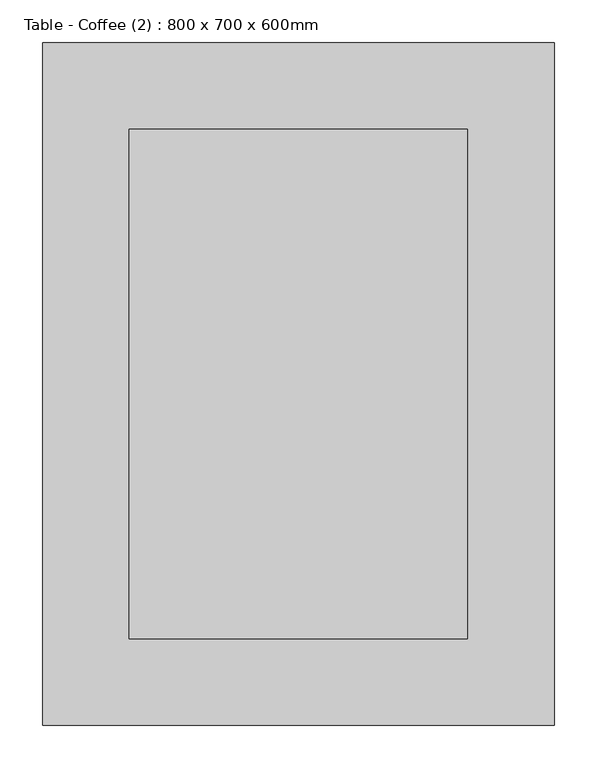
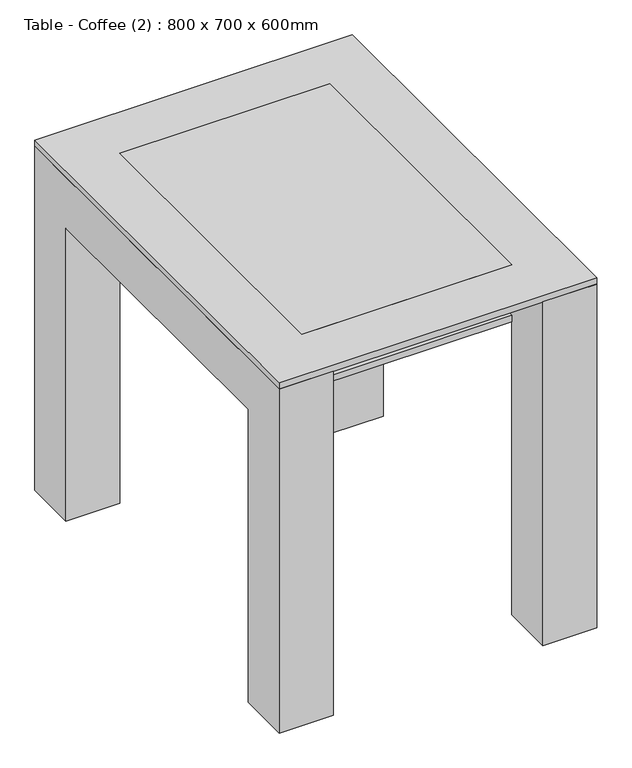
"""IFC4 building model written with IfcOpenShell, lengths in millimetres: furniture geometry, Table - Coffee (2) : 800 x 700 x 600mm."""

import ifcopenshell
import ifcopenshell.guid

model = None  # the IFC model being written
_history = None  # IfcOwnerHistory: only IFC2X3 demands one
_inside = {}  # id of a spatial element -> (the spatial element, [elements in it])
_under = {}  # id of a project, library or spatial element -> (it, [spatial elements below it])
_declared = {}  # id of a project -> (the project, [libraries it declares])
_typed = {}  # id of a type object -> (the type object, [elements of that type])
_made_of = {}  # id of a material, layer set ... -> (it, [elements and type objects made of it])


def new_model(schema):
    """Start an empty IFC model of exactly this schema.

    Asked for "IFC4X3", IfcOpenShell would pick the latest addendum, in which some entities
    have other attributes; the version numbers below select the first issue.
    IFC2X3 requires an IfcOwnerHistory on every rooted entity: one is made here for all.
    """
    global model, _history
    if schema == "IFC4X3":
        model = ifcopenshell.file(schema_version=(4, 3, 0, 0))
    else:
        model = ifcopenshell.file(schema=schema)
    _inside.clear()
    _under.clear()
    _declared.clear()
    _typed.clear()
    _made_of.clear()
    _history = None
    if model.schema == "IFC2X3":
        org = make("IfcOrganization", Name="unknown")
        user = make(
            "IfcPersonAndOrganization",
            ThePerson=make("IfcPerson", FamilyName="unknown"),
            TheOrganization=org,
        )
        app = make(
            "IfcApplication",
            ApplicationDeveloper=org,
            Version="unknown",
            ApplicationFullName="unknown",
            ApplicationIdentifier="unknown",
        )
        _history = make(
            "IfcOwnerHistory",
            OwningUser=user,
            OwningApplication=app,
            ChangeAction="ADDED",
            CreationDate=0,
        )
    return model


def make(cls, **values):
    """One entity of the class cls with the attributes given. An attribute that is None is left unset."""
    return model.create_entity(
        cls, **{name: value for name, value in values.items() if value is not None}
    )


def rooted(cls, **values):
    """An entity with a GlobalId (a new one), such as an element, a storey or a relation."""
    return make(cls, GlobalId=ifcopenshell.guid.new(), OwnerHistory=_history, **values)


def si_unit(unit_type, name, prefix=None):
    """IfcSIUnit, for example si_unit("LENGTHUNIT", "METRE", prefix="MILLI")."""
    return make("IfcSIUnit", UnitType=unit_type, Prefix=prefix, Name=name)


def assignment(units):
    """IfcUnitAssignment: the units of a project."""
    return None if units is None else make("IfcUnitAssignment", Units=units)


def point(xyz):
    """IfcCartesianPoint."""
    return None if xyz is None else make("IfcCartesianPoint", Coordinates=xyz)


def direction(xyz):
    """IfcDirection."""
    return None if xyz is None else make("IfcDirection", DirectionRatios=xyz)


def frame(location, z_axis=None, x_axis=None):
    """IfcAxis2Placement3D, a coordinate frame: its origin and axes. An axis left out is left unset."""
    return make(
        "IfcAxis2Placement3D",
        Location=point(location),
        Axis=direction(z_axis),
        RefDirection=direction(x_axis),
    )


def origin():
    """The frame at (0, 0, 0) with its axes left unset."""
    return frame((0.0, 0.0, 0.0))


def place(relative_to, where):
    """IfcLocalPlacement: puts the frame where relative to a parent placement (None: the world)."""
    return make(
        "IfcLocalPlacement", PlacementRelTo=relative_to, RelativePlacement=where
    )


def context(
    kind, dimensions, precision=None, world=None, true_north=None, identifier=None
):
    """IfcGeometricRepresentationContext, for example the 3D "Model" context."""
    return make(
        "IfcGeometricRepresentationContext",
        ContextIdentifier=identifier,
        ContextType=kind,
        CoordinateSpaceDimension=dimensions,
        Precision=precision,
        WorldCoordinateSystem=world,
        TrueNorth=true_north,
    )


def project(units=None, contexts=None):
    """IfcProject with its units and contexts."""
    return rooted(
        "IfcProject",
        Name="project",
        RepresentationContexts=contexts,
        UnitsInContext=assignment(units),
    )


def spatial(cls, under=None, at=None, **own):
    """A site, building, storey or space (cls), placed at a placement, below another one or the project."""
    s = rooted(cls, ObjectPlacement=at, **own)
    if under is not None:
        _under.setdefault(under.id(), (under, []))[1].append(s)
    return s


def polyline(points):
    """IfcPolyline through the points."""
    return make("IfcPolyline", Points=[point(p) for p in points])


def outline(outer, holes=None, kind="AREA"):
    """IfcArbitraryClosedProfileDef: a profile drawn as a closed curve; with holes, ...WithVoids."""
    if holes is None:
        return make("IfcArbitraryClosedProfileDef", ProfileType=kind, OuterCurve=outer)
    return make(
        "IfcArbitraryProfileDefWithVoids",
        ProfileType=kind,
        OuterCurve=outer,
        InnerCurves=holes,
    )


def extrude(swept, where, along, depth):
    """IfcExtrudedAreaSolid: the profile swept, set in the frame where, extruded along a direction by depth."""
    return make(
        "IfcExtrudedAreaSolid",
        SweptArea=swept,
        Position=where,
        ExtrudedDirection=direction(along),
        Depth=depth,
    )


def shape(context_of_items, identifier, shape_type, items):
    """IfcShapeRepresentation: the items that make up one representation, for example the "Body"."""
    return make(
        "IfcShapeRepresentation",
        ContextOfItems=context_of_items,
        RepresentationIdentifier=identifier,
        RepresentationType=shape_type,
        Items=items,
    )


def source(mapping_origin, context_of_items, identifier, shape_type, items):
    """IfcRepresentationMap: a shape defined once, which mapped items show again and again."""
    return make(
        "IfcRepresentationMap",
        MappingOrigin=mapping_origin,
        MappedRepresentation=shape(context_of_items, identifier, shape_type, items),
    )


def transform(
    local_origin,
    x_axis=None,
    y_axis=None,
    z_axis=None,
    scale=None,
    scale2=None,
    scale3=None,
    uniform=True,
):
    """IfcCartesianTransformationOperator3D, or its non-uniform kind. x_axis, y_axis, z_axis: its Axis1, 2, 3."""
    if uniform:
        return make(
            "IfcCartesianTransformationOperator3D",
            Axis1=direction(x_axis),
            Axis2=direction(y_axis),
            LocalOrigin=point(local_origin),
            Scale=scale,
            Axis3=direction(z_axis),
        )
    return make(
        "IfcCartesianTransformationOperator3DnonUniform",
        Axis1=direction(x_axis),
        Axis2=direction(y_axis),
        LocalOrigin=point(local_origin),
        Scale=scale,
        Axis3=direction(z_axis),
        Scale2=scale2,
        Scale3=scale3,
    )


def mapped(mapping_source, mapping_target):
    """IfcMappedItem: shows the shape of a source again, moved by a transform."""
    return make(
        "IfcMappedItem", MappingSource=mapping_source, MappingTarget=mapping_target
    )


def made_of(thing, what):
    """Note that an element or type object is made of a material, layer set ...; save() writes the relation."""
    if what is not None:
        _made_of.setdefault(what.id(), (what, []))[1].append(thing)
    return thing


def element(
    cls,
    number,
    at=None,
    inside=None,
    cuts=None,
    type_object=None,
    material=None,
    context=None,
    identifier="Body",
    shape_type=None,
    held_by="IfcProductDefinitionShape",
    body=None,
    shapes=None,
    **own,
):
    """One element of the class cls, such as IfcWall. Its Tag is "e" and its number.

    at: its placement. inside: the storey or other place that contains it. cuts: it is an
    opening in that element (IfcRelVoidsElement). A single representation is given by context,
    identifier, shape_type and body (its items); several are given by shapes. held_by: the class
    of the entity that holds the representations. save() writes the other relations.
    """
    e = rooted(cls, Tag="e%d" % number, ObjectPlacement=at, **own)
    if body is not None:
        shapes = [shape(context, identifier, shape_type, body)]
    if shapes is not None:
        e.Representation = make(held_by, Representations=shapes)
    if inside is not None:
        _inside.setdefault(inside.id(), (inside, []))[1].append(e)
    if cuts is not None:
        rooted(
            "IfcRelVoidsElement", RelatingBuildingElement=cuts, RelatedOpeningElement=e
        )
    if type_object is not None:
        _typed.setdefault(type_object.id(), (type_object, []))[1].append(e)
    return made_of(e, material)


def aggregate(whole, parts):
    """IfcRelAggregates: a whole, such as a stair, and the parts it consists of."""
    return rooted("IfcRelAggregates", RelatingObject=whole, RelatedObjects=parts)


def save(model, path):
    """Write the relations noted so far, then the file.

    IfcRelAggregates (storeys below a building ...), IfcRelContainedInSpatialStructure (elements
    in a storey), IfcRelDefinesByType, IfcRelAssociatesMaterial and IfcRelDeclares: one each for
    every whole, place, type object, material and project.
    """
    for whole, parts in _under.values():
        aggregate(whole, parts)
    for where, things in _inside.values():
        rooted(
            "IfcRelContainedInSpatialStructure",
            RelatedElements=things,
            RelatingStructure=where,
        )
    for kind, things in _typed.values():
        rooted("IfcRelDefinesByType", RelatedObjects=things, RelatingType=kind)
    for what, things in _made_of.values():
        rooted("IfcRelAssociatesMaterial", RelatedObjects=things, RelatingMaterial=what)
    for by, libraries in _declared.values():
        rooted("IfcRelDeclares", RelatingContext=by, RelatedDefinitions=libraries)
    model.write(path)


def table_coffee_2_800_x_700_x_600mm_039c7049(model_context):
    return source(origin(), model_context, "Body", "SweptSolid", [
        extrude(outline(polyline([(216.6657667, 393.6110778), (216.6657667, -203.1889222), (-180.1342333, -203.1889222), (-180.1342333, 393.6110778), (216.6657667, 393.6110778)])), frame((0.0, 0.0, 585.7), z_axis=(0.0, 0.0, 1.0), x_axis=(1.0, 0.0, 0.0)), (0.0, 0.0, 1.0), 12.7),
        extrude(outline(polyline([(495.2110778, 0.0), (393.6110778, 0.0), (393.6110778, 585.7), (-203.1889222, 585.7), (-203.1889222, 0.0), (-304.7889222, 0.0), (-304.7889222, 687.3), (495.2110778, 687.3), (495.2110778, 0.0)])), frame((216.6657667, 0.0, 0.0), z_axis=(1.0, 0.0, 0.0), x_axis=(0.0, 1.0, 0.0)), (0.0, 0.0, 1.0), 101.6),
        extrude(outline(polyline([(495.2110778, 687.3), (495.2110778, 0.0), (393.6110778, 0.0), (393.6110778, 585.7), (-203.1889222, 585.7), (-203.1889222, 0.0), (-304.7889222, 0.0), (-304.7889222, 687.3), (495.2110778, 687.3)])), frame((-281.7342333, 0.0, 0.0), z_axis=(1.0, 0.0, 0.0), x_axis=(0.0, 1.0, 0.0)), (0.0, 0.0, 1.0), 101.6),
        extrude(outline(polyline([(216.6657667, 393.6110778), (216.6657667, -203.1889222), (-180.1342333, -203.1889222), (-180.1342333, 393.6110778), (216.6657667, 393.6110778)])), frame((0.0, 0.0, 687.3), z_axis=(0.0, 0.0, 1.0), x_axis=(1.0, 0.0, 0.0)), (0.0, 0.0, 1.0), 12.7),
        extrude(outline(polyline([(318.2657667, 495.2110778), (318.2657667, -304.7889222), (-281.7342333, -304.7889222), (-281.7342333, 495.2110778), (318.2657667, 495.2110778)]), holes=[polyline([(216.6657667, 393.6110778), (-180.1342333, 393.6110778), (-180.1342333, -203.1889222), (216.6657667, -203.1889222), (216.6657667, 393.6110778)])]), frame((0.0, 0.0, 687.3), z_axis=(0.0, 0.0, 1.0), x_axis=(1.0, 0.0, 0.0)), (0.0, 0.0, 1.0), 12.7),
    ])


if __name__ == "__main__":
    model = new_model("IFC4")
    model_context = context("Model", 3, world=origin())
    ifc_project = project(units=[si_unit("LENGTHUNIT", "METRE", prefix="MILLI")], contexts=[model_context])
    site = spatial("IfcSite", under=ifc_project)
    building = spatial("IfcBuilding", under=site)
    placement = place(None, origin())
    table_coffee_2_800_x_700_x_600mm_shape = table_coffee_2_800_x_700_x_600mm_039c7049(model_context)
    element("IfcFurniture", 1, ObjectType="Table - Coffee (2) : 800 x 700 x 600mm", at=placement, inside=building, context=model_context, shape_type="MappedRepresentation", body=[
        mapped(table_coffee_2_800_x_700_x_600mm_shape, transform((0.0, 0.0, 0.0), x_axis=(1.0, 0.0, 0.0), y_axis=(0.0, 1.0, 0.0), z_axis=(0.0, 0.0, 1.0))),
    ])
    save(model, "model.ifc")
